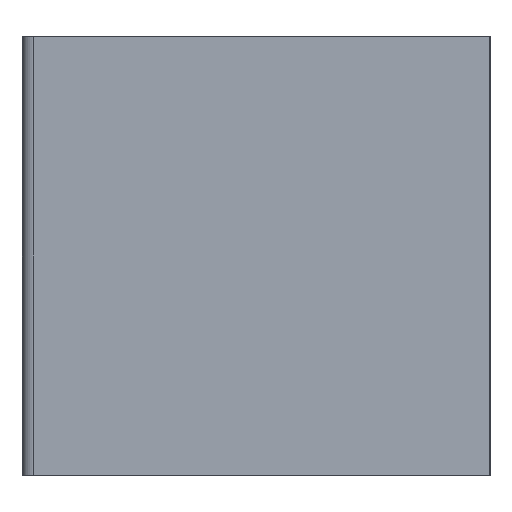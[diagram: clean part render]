
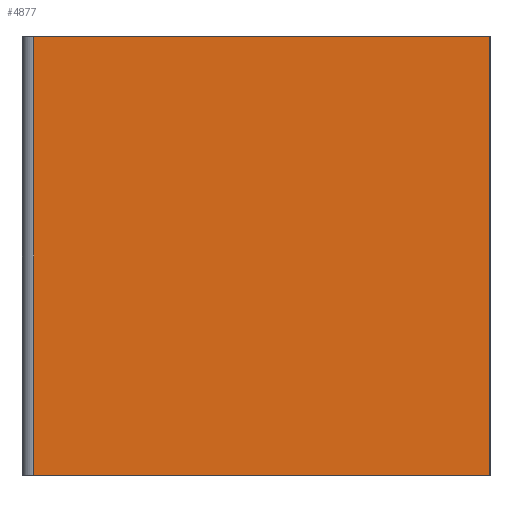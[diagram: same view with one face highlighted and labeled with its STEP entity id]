
A CAD part, left-side view. The second image highlights one B-rep face of the part: STEP entity #4877.
In plain terms, the highlighted planar face has unit normal (-1, 0, 0).
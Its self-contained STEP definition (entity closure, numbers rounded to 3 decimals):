
#220 = CARTESIAN_POINT ( 'NONE',  ( 196.246, -281.702, 0. ) ) ;
#358 = CARTESIAN_POINT ( 'NONE',  ( 196.246, -320.702, 0. ) ) ;
#475 = LINE ( 'NONE', #476, #477 ) ;
#476 = CARTESIAN_POINT ( 'NONE',  ( 196.246, -320.702, 0. ) ) ;
#477 = VECTOR ( 'NONE', #478, 1000. ) ;
#478 = DIRECTION ( 'NONE',  ( 0., -1., 0. ) ) ;
#1142 = FACE_OUTER_BOUND ( 'NONE', #4846, .T. ) ;
#1143 = PLANE ( 'NONE',  #1144 ) ;
#1144 = AXIS2_PLACEMENT_3D ( 'NONE', #1145, #1146, #1150 ) ;
#1145 = CARTESIAN_POINT ( 'NONE',  ( 196.246, -320.702, 37.5 ) ) ;
#1146 = DIRECTION ( 'NONE',  ( 1., 0., 0. ) ) ;
#1149 = VERTEX_POINT ( 'NONE', #6064 ) ;
#1150 = DIRECTION ( 'NONE',  ( 0., 0., -1. ) ) ;
#1371 = EDGE_CURVE ( 'NONE', #1149, #2258, #6154, .T. ) ;
#2258 = VERTEX_POINT ( 'NONE', #220 ) ;
#4416 = EDGE_CURVE ( 'NONE', #1149, #4525, #5792, .T. ) ;
#4460 = ORIENTED_EDGE ( 'NONE', *, *, #4416, .F. ) ;
#4525 = VERTEX_POINT ( 'NONE', #6197 ) ;
#4558 = EDGE_CURVE ( 'NONE', #4525, #4678, #6280, .T. ) ;
#4611 = ORIENTED_EDGE ( 'NONE', *, *, #4558, .F. ) ;
#4678 = VERTEX_POINT ( 'NONE', #358 ) ;
#4703 = EDGE_CURVE ( 'NONE', #2258, #4678, #475, .T. ) ;
#4750 = ORIENTED_EDGE ( 'NONE', *, *, #4703, .T. ) ;
#4846 = EDGE_LOOP ( 'NONE', ( #4750, #4611, #4460, #4952 ) ) ;
#4877 = ADVANCED_FACE ( 'NONE', ( #1142 ), #1143, .F. ) ;
#4952 = ORIENTED_EDGE ( 'NONE', *, *, #1371, .T. ) ;
#5792 = LINE ( 'NONE', #5793, #5794 ) ;
#5793 = CARTESIAN_POINT ( 'NONE',  ( 196.246, -320.702, 37.5 ) ) ;
#5794 = VECTOR ( 'NONE', #5795, 1000. ) ;
#5795 = DIRECTION ( 'NONE',  ( 0., -1., 0. ) ) ;
#6064 = CARTESIAN_POINT ( 'NONE',  ( 196.246, -281.702, 37.5 ) ) ;
#6154 = LINE ( 'NONE', #6155, #6156 ) ;
#6155 = CARTESIAN_POINT ( 'NONE',  ( 196.246, -281.702, 37.5 ) ) ;
#6156 = VECTOR ( 'NONE', #6157, 1000. ) ;
#6157 = DIRECTION ( 'NONE',  ( 0., 0., -1. ) ) ;
#6197 = CARTESIAN_POINT ( 'NONE',  ( 196.246, -320.702, 37.5 ) ) ;
#6280 = LINE ( 'NONE', #6281, #6282 ) ;
#6281 = CARTESIAN_POINT ( 'NONE',  ( 196.246, -320.702, 37.5 ) ) ;
#6282 = VECTOR ( 'NONE', #6283, 1000. ) ;
#6283 = DIRECTION ( 'NONE',  ( 0., 0., -1. ) ) ;
